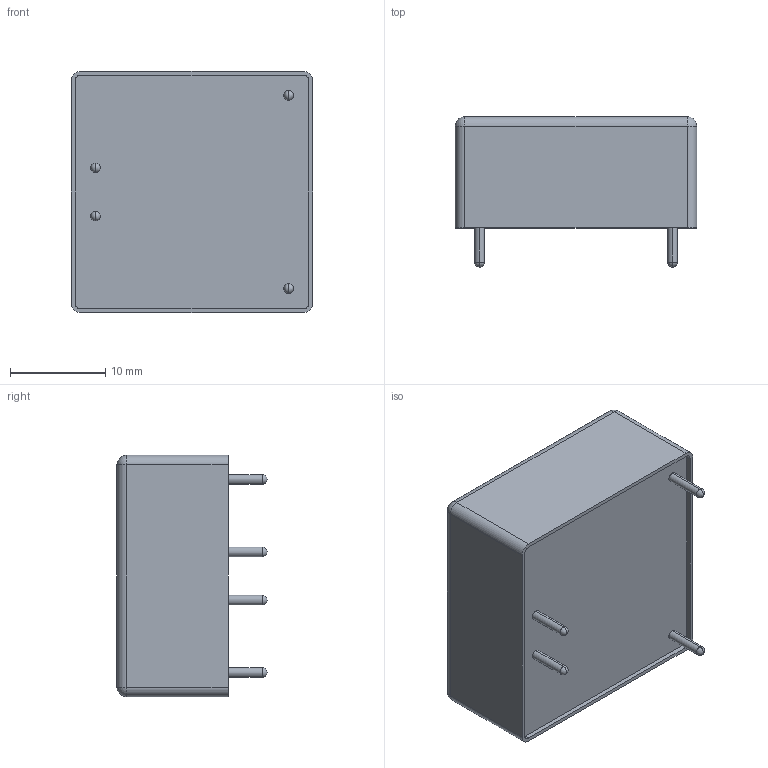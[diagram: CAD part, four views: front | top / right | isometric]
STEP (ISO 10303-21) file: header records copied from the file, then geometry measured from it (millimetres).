
FILE_DESCRIPTION (( 'STEP AP214' ), '1' );
FILE_NAME ('URB2403YMD-6WR3.STEP', '2021-04-08T02:28:41', ( '' ), ( '' ), 'SwSTEP 2.0', 'SolidWorks 2017', '' );
FILE_SCHEMA (( 'AUTOMOTIVE_DESIGN' ));
Length unit declared in the file: millimetre
Products named in the file (1): URB2403YMD-6WR3
Bounding box: 25.4 x 15.8 x 25.4 mm (x, y, z)
Volume: 7228.7 mm3; surface area: 2534.9 mm2
Topology: 9 solids, 9 shells, 75 faces, 160 edges, 96 vertices
Faces by surface type: cylinder 36, plane 27, sphere 12
Entity records: 1992 total; most frequent: DIRECTION 372, CARTESIAN_POINT 304, ORIENTED_EDGE 280, AXIS2_PLACEMENT_3D 156, EDGE_CURVE 140, VERTEX_POINT 88, CIRCLE 80, EDGE_LOOP 80
